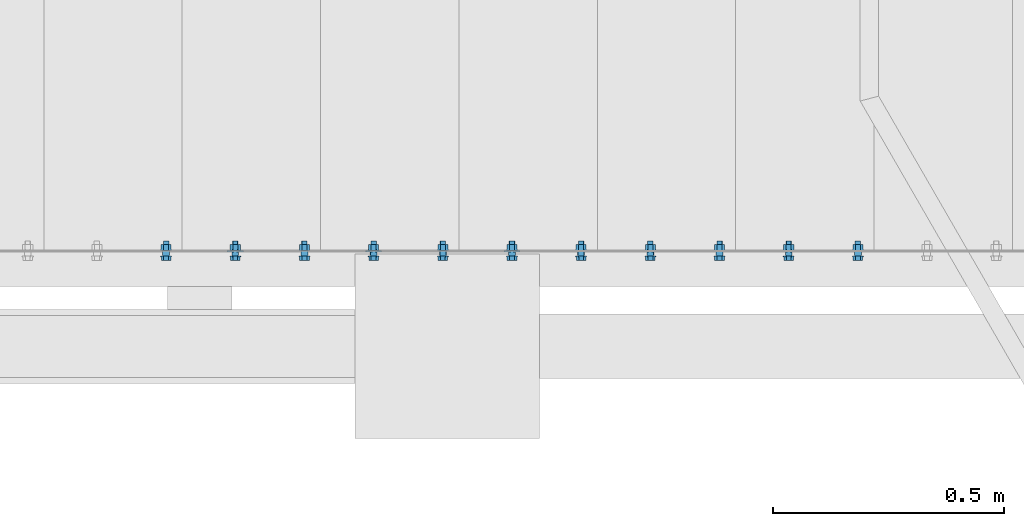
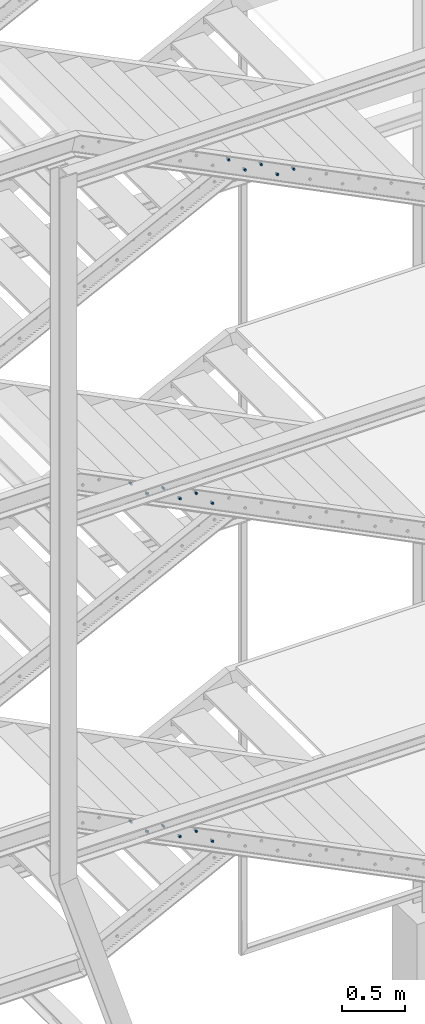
# One storey, part 100 of 132: 17 mechanical fasteners, 11 elements without a shape of their own.
"""IFC2X3 building model written with IfcOpenShell, lengths in millimetres."""

from ifc_helpers import new_model, si_unit, frame, frame_2d, origin_with_axes, origin_2d_with_axis, place, context, subcontext, project, spatial, polyline, circle_curve, parameter, trimmed, segment, composite_curve, circle, outline, extrude, source, transform, mapped, material, type_object, element, aggregate, save


model = new_model("IFC2X3")

# Units and contexts
model_context = context("Model", 3, precision=1e-05, world=origin_with_axes())
body_context = subcontext(model_context, "Body", "Model", "MODEL_VIEW")
ifc_project = project(units=[si_unit("LENGTHUNIT", "METRE", prefix="MILLI"), si_unit("AREAUNIT", "SQUARE_METRE"), si_unit("VOLUMEUNIT", "CUBIC_METRE"), si_unit("MASSUNIT", "GRAM", prefix="KILO"), si_unit("TIMEUNIT", "SECOND"), si_unit("PLANEANGLEUNIT", "RADIAN"), si_unit("SOLIDANGLEUNIT", "STERADIAN"), si_unit("THERMODYNAMICTEMPERATUREUNIT", "DEGREE_CELSIUS"), si_unit("LUMINOUSINTENSITYUNIT", "LUMEN")], contexts=[model_context])

# Site, building, storey
site_placement = place(None, origin_with_axes())
site = spatial("IfcSite", under=ifc_project, at=site_placement, Name="Budowa", CompositionType="ELEMENT")
building_placement = place(site_placement, origin_with_axes())
building = spatial("IfcBuilding", under=site, at=building_placement, Name="Undefined", CompositionType="ELEMENT")
storey_placement = place(building_placement, origin_with_axes())
storey = spatial("IfcBuildingStorey", under=building, at=storey_placement, Name="Undefined", CompositionType="ELEMENT", Elevation=0.0)

# Assembly, mechanical fastener
assembly_1_placement = place(storey_placement, origin_with_axes())
assembly_1 = element("IfcElementAssembly", 1, at=assembly_1_placement, inside=storey, Name="Steel Assembly", AssemblyPlace="NOTDEFINED", PredefinedType="RIGID_FRAME")
ifc_material = material(Name="Undefined")
discrete_accessory_type = type_object("IfcDiscreteAccessoryType", Name="Bolt assembly")
shared_shape_1 = source(origin_with_axes(), body_context, "Body", "SweptSolid", [
    extrude(circle(Radius=7.5, at=origin_2d_with_axis()), frame((0.0, -8.40000000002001, 0.0), z_axis=(0.0, 1.0, 0.0), x_axis=(1.0, 0.0, 0.0)), (0.0, 0.0, 1.0), 8.5),
    extrude(circle(Radius=7.5, at=origin_2d_with_axis()), frame((0.0, -0.1, 0.0), z_axis=(0.0, 1.0, 0.0), x_axis=(1.0, 0.0, 0.0)), (0.0, 0.0, 1.0), 3.1),
    extrude(outline(polyline([(10.39230484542, 0.0), (5.19615242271, 9.00000000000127), (-5.19615242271, 9.00000000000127), (-10.39230484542, 0.0), (-5.19615242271, -9.00000000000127), (5.19615242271, -9.00000000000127), (10.39230484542, 0.0)])), frame((0.0, -18.50000000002, 0.0), z_axis=(0.0, 1.0, 0.0), x_axis=(1.0, 0.0, 0.0)), (0.0, 0.0, 1.0), 7.5),
    extrude(circle(Radius=6.0, at=origin_2d_with_axis()), frame((0.0, -11.00000000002, 0.0), z_axis=(0.0, 1.0, 0.0), x_axis=(1.0, 0.0, 0.0)), (0.0, 0.0, 1.0), 35.0),
    extrude(circle(Radius=12.0, at=origin_2d_with_axis()), frame((0.0, -11.00000000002, 0.0), z_axis=(0.0, 1.0, 0.0), x_axis=(1.0, 0.0, 0.0)), (0.0, 0.0, 1.0), 2.5),
    extrude(circle(Radius=12.0, at=origin_2d_with_axis()), frame((0.0, 3.0, 0.0), z_axis=(0.0, 1.0, 0.0), x_axis=(1.0, 0.0, 0.0)), (0.0, 0.0, 1.0), 2.5),
    extrude(outline(polyline([(10.96965511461, 0.0), (5.484827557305, 9.50000000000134), (-5.484827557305, 9.50000000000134), (-10.96965511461, 0.0), (-5.484827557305, -9.50000000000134), (5.484827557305, -9.50000000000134), (10.96965511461, 0.0)])), frame((0.0, 5.5, 0.0), z_axis=(0.0, 1.0, 0.0), x_axis=(1.0, 0.0, 0.0)), (0.0, 0.0, 1.0), 10.0),
])
mechanical_fastener_1_placement = place(assembly_1_placement, frame((-2620.00000007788, 7875.00000004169, 11600.000000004), z_axis=(0.0, 0.0, -1.0), x_axis=(-1.0, 0.0, 0.0)))
mechanical_fastener_1 = element("IfcMechanicalFastener", 2, at=mechanical_fastener_1_placement, type_object=discrete_accessory_type, material=ifc_material, Name="Bolt assembly", NominalDiameter=12.0, NominalLength=35.0, context=body_context, shape_type="MappedRepresentation", body=[
    mapped(shared_shape_1, transform((35.0, 0.0, 25.0))),
])
aggregate(assembly_1, [mechanical_fastener_1])

assembly_2_placement = place(storey_placement, origin_with_axes())
assembly_2 = element("IfcElementAssembly", 3, at=assembly_2_placement, inside=storey, Name="Steel Assembly", AssemblyPlace="NOTDEFINED", PredefinedType="RIGID_FRAME")
mechanical_fastener_2_placement = place(assembly_2_placement, frame((-2320.00000007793, 7875.00000004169, 11450.000000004), z_axis=(0.0, 0.0, -1.0), x_axis=(-1.0, 0.0, 0.0)))
mechanical_fastener_2 = element("IfcMechanicalFastener", 4, at=mechanical_fastener_2_placement, type_object=discrete_accessory_type, material=ifc_material, Name="Bolt assembly", NominalDiameter=12.0, NominalLength=35.0, context=body_context, shape_type="MappedRepresentation", body=[
    mapped(shared_shape_1, transform((35.0, 0.0, 25.0))),
])

assembly_3_placement = place(storey_placement, origin_with_axes())
assembly_3 = element("IfcElementAssembly", 5, at=assembly_3_placement, inside=storey, Name="Steel Assembly", AssemblyPlace="NOTDEFINED", PredefinedType="RIGID_FRAME")
mechanical_fastener_3_placement = place(assembly_3_placement, frame((-2020.00000007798, 7875.00000004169, 11300.0000000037), z_axis=(0.0, 0.0, -1.0), x_axis=(-1.0, 0.0, 0.0)))
mechanical_fastener_3 = element("IfcMechanicalFastener", 6, at=mechanical_fastener_3_placement, type_object=discrete_accessory_type, material=ifc_material, Name="Bolt assembly", NominalDiameter=12.0, NominalLength=35.0, context=body_context, shape_type="MappedRepresentation", body=[
    mapped(shared_shape_1, transform((35.0, 0.0, 25.0))),
])

assembly_4_placement = place(storey_placement, origin_with_axes())
assembly_4 = element("IfcElementAssembly", 7, at=assembly_4_placement, inside=storey, Name="Steel Assembly", AssemblyPlace="NOTDEFINED", PredefinedType="RIGID_FRAME")
mechanical_fastener_4_placement = place(assembly_4_placement, frame((-3520.00000007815, 7875.00000004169, 8750.00000000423), z_axis=(0.0, 0.0, -1.0), x_axis=(-1.0, 0.0, 0.0)))
mechanical_fastener_4 = element("IfcMechanicalFastener", 8, at=mechanical_fastener_4_placement, type_object=discrete_accessory_type, material=ifc_material, Name="Bolt assembly", NominalDiameter=12.0, NominalLength=35.0, context=body_context, shape_type="MappedRepresentation", body=[
    mapped(shared_shape_1, transform((35.0, 0.0, 25.0))),
])
aggregate(assembly_4, [mechanical_fastener_4])

assembly_5_placement = place(storey_placement, origin_with_axes())
assembly_5 = element("IfcElementAssembly", 9, at=assembly_5_placement, inside=storey, Name="Steel Assembly", AssemblyPlace="NOTDEFINED", PredefinedType="RIGID_FRAME")
mechanical_fastener_5_placement = place(assembly_5_placement, frame((-3220.00000007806, 7875.00000004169, 8600.00000000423), z_axis=(0.0, 0.0, -1.0), x_axis=(-1.0, 0.0, 0.0)))
mechanical_fastener_5 = element("IfcMechanicalFastener", 10, at=mechanical_fastener_5_placement, type_object=discrete_accessory_type, material=ifc_material, Name="Bolt assembly", NominalDiameter=12.0, NominalLength=35.0, context=body_context, shape_type="MappedRepresentation", body=[
    mapped(shared_shape_1, transform((35.0, 0.0, 25.0))),
])

assembly_6_placement = place(storey_placement, origin_with_axes())
assembly_6 = element("IfcElementAssembly", 11, at=assembly_6_placement, inside=storey, Name="Steel Assembly", AssemblyPlace="NOTDEFINED", PredefinedType="RIGID_FRAME")
mechanical_fastener_6_placement = place(assembly_6_placement, frame((-2920.00000007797, 7875.00000004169, 8450.00000000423), z_axis=(0.0, 0.0, -1.0), x_axis=(-1.0, 0.0, 0.0)))
mechanical_fastener_6 = element("IfcMechanicalFastener", 12, at=mechanical_fastener_6_placement, type_object=discrete_accessory_type, material=ifc_material, Name="Bolt assembly", NominalDiameter=12.0, NominalLength=35.0, context=body_context, shape_type="MappedRepresentation", body=[
    mapped(shared_shape_1, transform((35.0, 0.0, 25.0))),
])

assembly_7_placement = place(storey_placement, origin_with_axes())
assembly_7 = element("IfcElementAssembly", 13, at=assembly_7_placement, inside=storey, Name="Steel Assembly", AssemblyPlace="NOTDEFINED", PredefinedType="RIGID_FRAME")
mechanical_fastener_7_placement = place(assembly_7_placement, frame((-3520.00000007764, 7875.00000004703, 5449.99999999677), z_axis=(0.0, 0.0, -1.0), x_axis=(-1.0, 0.0, 0.0)))
mechanical_fastener_7 = element("IfcMechanicalFastener", 14, at=mechanical_fastener_7_placement, type_object=discrete_accessory_type, material=ifc_material, Name="Bolt assembly", NominalDiameter=12.0, NominalLength=35.0, context=body_context, shape_type="MappedRepresentation", body=[
    mapped(shared_shape_1, transform((35.0, 0.0, 25.0))),
])
aggregate(assembly_7, [mechanical_fastener_7])

assembly_8_placement = place(storey_placement, origin_with_axes())
assembly_8 = element("IfcElementAssembly", 15, at=assembly_8_placement, inside=storey, Name="Steel Assembly", AssemblyPlace="NOTDEFINED", PredefinedType="RIGID_FRAME")
mechanical_fastener_8_placement = place(assembly_8_placement, frame((-3220.00000007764, 7875.00000004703, 5299.99999999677), z_axis=(0.0, 0.0, -1.0), x_axis=(-1.0, 0.0, 0.0)))
mechanical_fastener_8 = element("IfcMechanicalFastener", 16, at=mechanical_fastener_8_placement, type_object=discrete_accessory_type, material=ifc_material, Name="Bolt assembly", NominalDiameter=12.0, NominalLength=35.0, context=body_context, shape_type="MappedRepresentation", body=[
    mapped(shared_shape_1, transform((35.0, 0.0, 25.0))),
])

assembly_9_placement = place(storey_placement, origin_with_axes())
assembly_9 = element("IfcElementAssembly", 17, at=assembly_9_placement, inside=storey, Name="Steel Assembly", AssemblyPlace="NOTDEFINED", PredefinedType="RIGID_FRAME")
mechanical_fastener_9_placement = place(assembly_9_placement, frame((-2920.00000007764, 7875.00000004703, 5149.99999999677), z_axis=(0.0, 0.0, -1.0), x_axis=(-1.0, 0.0, 0.0)))
mechanical_fastener_9 = element("IfcMechanicalFastener", 18, at=mechanical_fastener_9_placement, type_object=discrete_accessory_type, material=ifc_material, Name="Bolt assembly", NominalDiameter=12.0, NominalLength=35.0, context=body_context, shape_type="MappedRepresentation", body=[
    mapped(shared_shape_1, transform((35.0, 0.0, 25.0))),
])

# Mechanical fastener
shared_shape_2 = source(origin_with_axes(), body_context, "Body", "SweptSolid", [
    extrude(circle(Radius=7.5, at=origin_2d_with_axis()), frame((0.0, -8.40000000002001, 0.0), z_axis=(0.0, 1.0, 0.0), x_axis=(1.0, 0.0, 0.0)), (0.0, 0.0, 1.0), 8.5),
    extrude(outline(composite_curve([segment(polyline([(-10.0, 7.5), (10.0, 7.5)]), True, "CONTINUOUS"), segment(trimmed(circle_curve(frame_2d((10.0, 0.0), x_axis=(0.0, 1.0)), 7.5), [parameter(0.0)], [parameter(3.14159265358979)], False, "PARAMETER"), True, "CONTINUOUS"), segment(polyline([(10.0, -7.5), (-10.0, -7.5)]), True, "CONTINUOUS"), segment(trimmed(circle_curve(frame_2d((-10.0, 0.0), x_axis=(0.0, -1.0)), 7.5), [parameter(0.0)], [parameter(3.14159265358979)], False, "PARAMETER"), True, "DISCONTINUOUS")], self_intersect=False)), frame((0.0, -0.1, 0.0), z_axis=(0.0, 1.0, 0.0), x_axis=(1.0, 0.0, 0.0)), (0.0, 0.0, 1.0), 3.1),
    extrude(outline(polyline([(10.39230484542, 0.0), (5.19615242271, 9.00000000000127), (-5.19615242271, 9.00000000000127), (-10.39230484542, 0.0), (-5.19615242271, -9.00000000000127), (5.19615242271, -9.00000000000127), (10.39230484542, 0.0)])), frame((0.0, -18.50000000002, 0.0), z_axis=(0.0, 1.0, 0.0), x_axis=(1.0, 0.0, 0.0)), (0.0, 0.0, 1.0), 7.5),
    extrude(circle(Radius=6.0, at=origin_2d_with_axis()), frame((0.0, -11.00000000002, 0.0), z_axis=(0.0, 1.0, 0.0), x_axis=(1.0, 0.0, 0.0)), (0.0, 0.0, 1.0), 35.0),
    extrude(circle(Radius=12.0, at=origin_2d_with_axis()), frame((0.0, -11.00000000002, 0.0), z_axis=(0.0, 1.0, 0.0), x_axis=(1.0, 0.0, 0.0)), (0.0, 0.0, 1.0), 2.5),
    extrude(circle(Radius=12.0, at=origin_2d_with_axis()), frame((0.0, 3.0, 0.0), z_axis=(0.0, 1.0, 0.0), x_axis=(1.0, 0.0, 0.0)), (0.0, 0.0, 1.0), 2.5),
    extrude(outline(polyline([(10.96965511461, 0.0), (5.484827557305, 9.50000000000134), (-5.484827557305, 9.50000000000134), (-10.96965511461, 0.0), (-5.484827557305, -9.50000000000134), (5.484827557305, -9.50000000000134), (10.96965511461, 0.0)])), frame((0.0, 5.5, 0.0), z_axis=(0.0, 1.0, 0.0), x_axis=(1.0, 0.0, 0.0)), (0.0, 0.0, 1.0), 10.0),
])
mechanical_fastener_10_placement = place(assembly_2_placement, frame((-2320.00000007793, 7875.00000004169, 11450.000000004), z_axis=(0.0, 0.0, -1.0), x_axis=(-1.0, 0.0, 0.0)))
mechanical_fastener_10 = element("IfcMechanicalFastener", 19, at=mechanical_fastener_10_placement, type_object=discrete_accessory_type, material=ifc_material, Name="Bolt assembly", NominalDiameter=12.0, NominalLength=35.0, context=body_context, shape_type="MappedRepresentation", body=[
    mapped(shared_shape_2, transform((185.0, 0.0, 25.0))),
])

aggregate(assembly_2, [mechanical_fastener_10, mechanical_fastener_2])

shared_shape_3 = source(origin_with_axes(), body_context, "Body", "SweptSolid", [
    extrude(circle(Radius=7.5, at=origin_2d_with_axis()), frame((0.0, -8.40000000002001, 0.0), z_axis=(0.0, 1.0, 0.0), x_axis=(1.0, 0.0, 0.0)), (0.0, 0.0, 1.0), 8.5),
    extrude(outline(composite_curve([segment(polyline([(-10.0, 7.5), (10.0, 7.5)]), True, "CONTINUOUS"), segment(trimmed(circle_curve(frame_2d((10.0, 0.0), x_axis=(0.0, 1.0)), 7.5), [parameter(0.0)], [parameter(3.14159265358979)], False, "PARAMETER"), True, "CONTINUOUS"), segment(polyline([(10.0, -7.5), (-10.0, -7.5)]), True, "CONTINUOUS"), segment(trimmed(circle_curve(frame_2d((-10.0, 0.0), x_axis=(0.0, -1.0)), 7.5), [parameter(0.0)], [parameter(3.14159265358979)], False, "PARAMETER"), True, "DISCONTINUOUS")], self_intersect=False)), frame((0.0, -0.1, 0.0), z_axis=(0.0, 1.0, 0.0), x_axis=(1.0, 0.0, 0.0)), (0.0, 0.0, 1.0), 3.1),
    extrude(outline(polyline([(10.39230484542, 0.0), (5.19615242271, 9.00000000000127), (-5.19615242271, 9.00000000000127), (-10.39230484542, 0.0), (-5.19615242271, -9.00000000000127), (5.19615242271, -9.00000000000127), (10.39230484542, 0.0)])), frame((0.0, -18.50000000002, 0.0), z_axis=(0.0, 1.0, 0.0), x_axis=(1.0, 0.0, 0.0)), (0.0, 0.0, 1.0), 7.5),
    extrude(circle(Radius=6.0, at=origin_2d_with_axis()), frame((0.0, -11.00000000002, 0.0), z_axis=(0.0, 1.0, 0.0), x_axis=(1.0, 0.0, 0.0)), (0.0, 0.0, 1.0), 35.0),
    extrude(circle(Radius=12.0, at=origin_2d_with_axis()), frame((0.0, -11.00000000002, 0.0), z_axis=(0.0, 1.0, 0.0), x_axis=(1.0, 0.0, 0.0)), (0.0, 0.0, 1.0), 2.5),
    extrude(circle(Radius=12.0, at=origin_2d_with_axis()), frame((0.0, 3.0, 0.0), z_axis=(0.0, 1.0, 0.0), x_axis=(1.0, 0.0, 0.0)), (0.0, 0.0, 1.0), 2.5),
    extrude(outline(polyline([(10.96965511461, 0.0), (5.484827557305, 9.50000000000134), (-5.484827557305, 9.50000000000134), (-10.96965511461, 0.0), (-5.484827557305, -9.50000000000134), (5.484827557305, -9.50000000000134), (10.96965511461, 0.0)])), frame((0.0, 5.5, 0.0), z_axis=(0.0, 1.0, 0.0), x_axis=(1.0, 0.0, 0.0)), (0.0, 0.0, 1.0), 10.0),
])
mechanical_fastener_11_placement = place(assembly_3_placement, frame((-2020.00000007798, 7875.00000004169, 11300.0000000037), z_axis=(0.0, 0.0, -1.0), x_axis=(-1.0, 0.0, 0.0)))
mechanical_fastener_11 = element("IfcMechanicalFastener", 20, at=mechanical_fastener_11_placement, type_object=discrete_accessory_type, material=ifc_material, Name="Bolt assembly", NominalDiameter=12.0, NominalLength=35.0, context=body_context, shape_type="MappedRepresentation", body=[
    mapped(shared_shape_3, transform((185.0, 0.0, 25.0))),
])

aggregate(assembly_3, [mechanical_fastener_11, mechanical_fastener_3])

shared_shape_4 = source(origin_with_axes(), body_context, "Body", "SweptSolid", [
    extrude(circle(Radius=7.5, at=origin_2d_with_axis()), frame((0.0, -8.40000000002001, 0.0), z_axis=(0.0, 1.0, 0.0), x_axis=(1.0, 0.0, 0.0)), (0.0, 0.0, 1.0), 8.5),
    extrude(outline(composite_curve([segment(polyline([(-10.0, 7.5), (10.0, 7.5)]), True, "CONTINUOUS"), segment(trimmed(circle_curve(frame_2d((10.0, 0.0), x_axis=(0.0, 1.0)), 7.5), [parameter(0.0)], [parameter(3.14159265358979)], False, "PARAMETER"), True, "CONTINUOUS"), segment(polyline([(10.0, -7.5), (-10.0, -7.5)]), True, "CONTINUOUS"), segment(trimmed(circle_curve(frame_2d((-10.0, 0.0), x_axis=(0.0, -1.0)), 7.5), [parameter(0.0)], [parameter(3.14159265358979)], False, "PARAMETER"), True, "DISCONTINUOUS")], self_intersect=False)), frame((0.0, -0.1, 0.0), z_axis=(0.0, 1.0, 0.0), x_axis=(1.0, 0.0, 0.0)), (0.0, 0.0, 1.0), 3.1),
    extrude(outline(polyline([(10.39230484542, 0.0), (5.19615242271, 9.00000000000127), (-5.19615242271, 9.00000000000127), (-10.39230484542, 0.0), (-5.19615242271, -9.00000000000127), (5.19615242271, -9.00000000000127), (10.39230484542, 0.0)])), frame((0.0, -18.50000000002, 0.0), z_axis=(0.0, 1.0, 0.0), x_axis=(1.0, 0.0, 0.0)), (0.0, 0.0, 1.0), 7.5),
    extrude(circle(Radius=6.0, at=origin_2d_with_axis()), frame((0.0, -11.00000000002, 0.0), z_axis=(0.0, 1.0, 0.0), x_axis=(1.0, 0.0, 0.0)), (0.0, 0.0, 1.0), 35.0),
    extrude(circle(Radius=12.0, at=origin_2d_with_axis()), frame((0.0, -11.00000000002, 0.0), z_axis=(0.0, 1.0, 0.0), x_axis=(1.0, 0.0, 0.0)), (0.0, 0.0, 1.0), 2.5),
    extrude(circle(Radius=12.0, at=origin_2d_with_axis()), frame((0.0, 3.0, 0.0), z_axis=(0.0, 1.0, 0.0), x_axis=(1.0, 0.0, 0.0)), (0.0, 0.0, 1.0), 2.5),
    extrude(outline(polyline([(10.96965511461, 0.0), (5.484827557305, 9.50000000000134), (-5.484827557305, 9.50000000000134), (-10.96965511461, 0.0), (-5.484827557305, -9.50000000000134), (5.484827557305, -9.50000000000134), (10.96965511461, 0.0)])), frame((0.0, 5.5, 0.0), z_axis=(0.0, 1.0, 0.0), x_axis=(1.0, 0.0, 0.0)), (0.0, 0.0, 1.0), 10.0),
])
mechanical_fastener_12_placement = place(assembly_5_placement, frame((-3220.00000007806, 7875.00000004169, 8600.00000000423), z_axis=(0.0, 0.0, -1.0), x_axis=(-1.0, 0.0, 0.0)))
mechanical_fastener_12 = element("IfcMechanicalFastener", 21, at=mechanical_fastener_12_placement, type_object=discrete_accessory_type, material=ifc_material, Name="Bolt assembly", NominalDiameter=12.0, NominalLength=35.0, context=body_context, shape_type="MappedRepresentation", body=[
    mapped(shared_shape_4, transform((185.0, 0.0, 25.0))),
])

aggregate(assembly_5, [mechanical_fastener_12, mechanical_fastener_5])

shared_shape_5 = source(origin_with_axes(), body_context, "Body", "SweptSolid", [
    extrude(circle(Radius=7.5, at=origin_2d_with_axis()), frame((0.0, -8.40000000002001, 0.0), z_axis=(0.0, 1.0, 0.0), x_axis=(1.0, 0.0, 0.0)), (0.0, 0.0, 1.0), 8.5),
    extrude(outline(composite_curve([segment(polyline([(-10.0, 7.5), (10.0, 7.5)]), True, "CONTINUOUS"), segment(trimmed(circle_curve(frame_2d((10.0, 0.0), x_axis=(0.0, 1.0)), 7.5), [parameter(0.0)], [parameter(3.14159265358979)], False, "PARAMETER"), True, "CONTINUOUS"), segment(polyline([(10.0, -7.5), (-10.0, -7.5)]), True, "CONTINUOUS"), segment(trimmed(circle_curve(frame_2d((-10.0, 0.0), x_axis=(0.0, -1.0)), 7.5), [parameter(0.0)], [parameter(3.14159265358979)], False, "PARAMETER"), True, "DISCONTINUOUS")], self_intersect=False)), frame((0.0, -0.1, 0.0), z_axis=(0.0, 1.0, 0.0), x_axis=(1.0, 0.0, 0.0)), (0.0, 0.0, 1.0), 3.1),
    extrude(outline(polyline([(10.39230484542, 0.0), (5.19615242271, 9.00000000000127), (-5.19615242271, 9.00000000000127), (-10.39230484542, 0.0), (-5.19615242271, -9.00000000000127), (5.19615242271, -9.00000000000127), (10.39230484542, 0.0)])), frame((0.0, -18.50000000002, 0.0), z_axis=(0.0, 1.0, 0.0), x_axis=(1.0, 0.0, 0.0)), (0.0, 0.0, 1.0), 7.5),
    extrude(circle(Radius=6.0, at=origin_2d_with_axis()), frame((0.0, -11.00000000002, 0.0), z_axis=(0.0, 1.0, 0.0), x_axis=(1.0, 0.0, 0.0)), (0.0, 0.0, 1.0), 35.0),
    extrude(circle(Radius=12.0, at=origin_2d_with_axis()), frame((0.0, -11.00000000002, 0.0), z_axis=(0.0, 1.0, 0.0), x_axis=(1.0, 0.0, 0.0)), (0.0, 0.0, 1.0), 2.5),
    extrude(circle(Radius=12.0, at=origin_2d_with_axis()), frame((0.0, 3.0, 0.0), z_axis=(0.0, 1.0, 0.0), x_axis=(1.0, 0.0, 0.0)), (0.0, 0.0, 1.0), 2.5),
    extrude(outline(polyline([(10.96965511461, 0.0), (5.484827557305, 9.50000000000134), (-5.484827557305, 9.50000000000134), (-10.96965511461, 0.0), (-5.484827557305, -9.50000000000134), (5.484827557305, -9.50000000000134), (10.96965511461, 0.0)])), frame((0.0, 5.5, 0.0), z_axis=(0.0, 1.0, 0.0), x_axis=(1.0, 0.0, 0.0)), (0.0, 0.0, 1.0), 10.0),
])
mechanical_fastener_13_placement = place(assembly_6_placement, frame((-2920.00000007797, 7875.00000004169, 8450.00000000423), z_axis=(0.0, 0.0, -1.0), x_axis=(-1.0, 0.0, 0.0)))
mechanical_fastener_13 = element("IfcMechanicalFastener", 22, at=mechanical_fastener_13_placement, type_object=discrete_accessory_type, material=ifc_material, Name="Bolt assembly", NominalDiameter=12.0, NominalLength=35.0, context=body_context, shape_type="MappedRepresentation", body=[
    mapped(shared_shape_5, transform((185.0, 0.0, 25.0))),
])

aggregate(assembly_6, [mechanical_fastener_13, mechanical_fastener_6])

# Assembly, mechanical fastener
assembly_10_placement = place(storey_placement, origin_with_axes())
assembly_10 = element("IfcElementAssembly", 23, at=assembly_10_placement, inside=storey, Name="Steel Assembly", AssemblyPlace="NOTDEFINED", PredefinedType="RIGID_FRAME")
shared_shape_6 = source(origin_with_axes(), body_context, "Body", "SweptSolid", [
    extrude(circle(Radius=7.5, at=origin_2d_with_axis()), frame((0.0, -8.40000000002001, 0.0), z_axis=(0.0, 1.0, 0.0), x_axis=(1.0, 0.0, 0.0)), (0.0, 0.0, 1.0), 8.5),
    extrude(outline(composite_curve([segment(polyline([(-10.0, 7.5), (10.0, 7.5)]), True, "CONTINUOUS"), segment(trimmed(circle_curve(frame_2d((10.0, 0.0), x_axis=(0.0, 1.0)), 7.5), [parameter(0.0)], [parameter(3.14159265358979)], False, "PARAMETER"), True, "CONTINUOUS"), segment(polyline([(10.0, -7.5), (-10.0, -7.5)]), True, "CONTINUOUS"), segment(trimmed(circle_curve(frame_2d((-10.0, 0.0), x_axis=(0.0, -1.0)), 7.5), [parameter(0.0)], [parameter(3.14159265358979)], False, "PARAMETER"), True, "DISCONTINUOUS")], self_intersect=False)), frame((0.0, -0.1, 0.0), z_axis=(0.0, 1.0, 0.0), x_axis=(1.0, 0.0, 0.0)), (0.0, 0.0, 1.0), 3.1),
    extrude(outline(polyline([(10.39230484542, 0.0), (5.19615242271, 9.00000000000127), (-5.19615242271, 9.00000000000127), (-10.39230484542, 0.0), (-5.19615242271, -9.00000000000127), (5.19615242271, -9.00000000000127), (10.39230484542, 0.0)])), frame((0.0, -18.50000000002, 0.0), z_axis=(0.0, 1.0, 0.0), x_axis=(1.0, 0.0, 0.0)), (0.0, 0.0, 1.0), 7.5),
    extrude(circle(Radius=6.0, at=origin_2d_with_axis()), frame((0.0, -11.00000000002, 0.0), z_axis=(0.0, 1.0, 0.0), x_axis=(1.0, 0.0, 0.0)), (0.0, 0.0, 1.0), 35.0),
    extrude(circle(Radius=12.0, at=origin_2d_with_axis()), frame((0.0, -11.00000000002, 0.0), z_axis=(0.0, 1.0, 0.0), x_axis=(1.0, 0.0, 0.0)), (0.0, 0.0, 1.0), 2.5),
    extrude(circle(Radius=12.0, at=origin_2d_with_axis()), frame((0.0, 3.0, 0.0), z_axis=(0.0, 1.0, 0.0), x_axis=(1.0, 0.0, 0.0)), (0.0, 0.0, 1.0), 2.5),
    extrude(outline(polyline([(10.96965511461, 0.0), (5.484827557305, 9.50000000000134), (-5.484827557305, 9.50000000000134), (-10.96965511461, 0.0), (-5.484827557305, -9.50000000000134), (5.484827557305, -9.50000000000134), (10.96965511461, 0.0)])), frame((0.0, 5.5, 0.0), z_axis=(0.0, 1.0, 0.0), x_axis=(1.0, 0.0, 0.0)), (0.0, 0.0, 1.0), 10.0),
])
mechanical_fastener_14_placement = place(assembly_10_placement, frame((-2620.00000007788, 7875.00000004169, 8300.00000000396), z_axis=(0.0, 0.0, -1.0), x_axis=(-1.0, 0.0, 0.0)))
mechanical_fastener_14 = element("IfcMechanicalFastener", 24, at=mechanical_fastener_14_placement, type_object=discrete_accessory_type, material=ifc_material, Name="Bolt assembly", NominalDiameter=12.0, NominalLength=35.0, context=body_context, shape_type="MappedRepresentation", body=[
    mapped(shared_shape_6, transform((185.0, 0.0, 25.0))),
])
aggregate(assembly_10, [mechanical_fastener_14])

# Mechanical fastener
shared_shape_7 = source(origin_with_axes(), body_context, "Body", "SweptSolid", [
    extrude(circle(Radius=7.5, at=origin_2d_with_axis()), frame((0.0, -8.40000000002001, 0.0), z_axis=(0.0, 1.0, 0.0), x_axis=(1.0, 0.0, 0.0)), (0.0, 0.0, 1.0), 8.5),
    extrude(outline(composite_curve([segment(polyline([(-10.0, 7.5), (10.0, 7.5)]), True, "CONTINUOUS"), segment(trimmed(circle_curve(frame_2d((10.0, 0.0), x_axis=(0.0, 1.0)), 7.5), [parameter(0.0)], [parameter(3.14159265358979)], False, "PARAMETER"), True, "CONTINUOUS"), segment(polyline([(10.0, -7.5), (-10.0, -7.5)]), True, "CONTINUOUS"), segment(trimmed(circle_curve(frame_2d((-10.0, 0.0), x_axis=(0.0, -1.0)), 7.5), [parameter(0.0)], [parameter(3.14159265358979)], False, "PARAMETER"), True, "DISCONTINUOUS")], self_intersect=False)), frame((0.0, -0.1, 0.0), z_axis=(0.0, 1.0, 0.0), x_axis=(1.0, 0.0, 0.0)), (0.0, 0.0, 1.0), 3.1),
    extrude(outline(polyline([(10.39230484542, 0.0), (5.19615242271, 9.00000000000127), (-5.19615242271, 9.00000000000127), (-10.39230484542, 0.0), (-5.19615242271, -9.00000000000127), (5.19615242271, -9.00000000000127), (10.39230484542, 0.0)])), frame((0.0, -18.50000000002, 0.0), z_axis=(0.0, 1.0, 0.0), x_axis=(1.0, 0.0, 0.0)), (0.0, 0.0, 1.0), 7.5),
    extrude(circle(Radius=6.0, at=origin_2d_with_axis()), frame((0.0, -11.00000000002, 0.0), z_axis=(0.0, 1.0, 0.0), x_axis=(1.0, 0.0, 0.0)), (0.0, 0.0, 1.0), 35.0),
    extrude(circle(Radius=12.0, at=origin_2d_with_axis()), frame((0.0, -11.00000000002, 0.0), z_axis=(0.0, 1.0, 0.0), x_axis=(1.0, 0.0, 0.0)), (0.0, 0.0, 1.0), 2.5),
    extrude(circle(Radius=12.0, at=origin_2d_with_axis()), frame((0.0, 3.0, 0.0), z_axis=(0.0, 1.0, 0.0), x_axis=(1.0, 0.0, 0.0)), (0.0, 0.0, 1.0), 2.5),
    extrude(outline(polyline([(10.96965511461, 0.0), (5.484827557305, 9.50000000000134), (-5.484827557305, 9.50000000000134), (-10.96965511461, 0.0), (-5.484827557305, -9.50000000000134), (5.484827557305, -9.50000000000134), (10.96965511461, 0.0)])), frame((0.0, 5.5, 0.0), z_axis=(0.0, 1.0, 0.0), x_axis=(1.0, 0.0, 0.0)), (0.0, 0.0, 1.0), 10.0),
])
mechanical_fastener_15_placement = place(assembly_8_placement, frame((-3220.00000007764, 7875.00000004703, 5299.99999999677), z_axis=(0.0, 0.0, -1.0), x_axis=(-1.0, 0.0, 0.0)))
mechanical_fastener_15 = element("IfcMechanicalFastener", 25, at=mechanical_fastener_15_placement, type_object=discrete_accessory_type, material=ifc_material, Name="Bolt assembly", NominalDiameter=12.0, NominalLength=35.0, context=body_context, shape_type="MappedRepresentation", body=[
    mapped(shared_shape_7, transform((185.0, 0.0, 25.0))),
])

aggregate(assembly_8, [mechanical_fastener_15, mechanical_fastener_8])

shared_shape_8 = source(origin_with_axes(), body_context, "Body", "SweptSolid", [
    extrude(circle(Radius=7.5, at=origin_2d_with_axis()), frame((0.0, -8.40000000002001, 0.0), z_axis=(0.0, 1.0, 0.0), x_axis=(1.0, 0.0, 0.0)), (0.0, 0.0, 1.0), 8.5),
    extrude(outline(composite_curve([segment(polyline([(-10.0, 7.5), (10.0, 7.5)]), True, "CONTINUOUS"), segment(trimmed(circle_curve(frame_2d((10.0, 0.0), x_axis=(0.0, 1.0)), 7.5), [parameter(0.0)], [parameter(3.14159265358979)], False, "PARAMETER"), True, "CONTINUOUS"), segment(polyline([(10.0, -7.5), (-10.0, -7.5)]), True, "CONTINUOUS"), segment(trimmed(circle_curve(frame_2d((-10.0, 0.0), x_axis=(0.0, -1.0)), 7.5), [parameter(0.0)], [parameter(3.14159265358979)], False, "PARAMETER"), True, "DISCONTINUOUS")], self_intersect=False)), frame((0.0, -0.1, 0.0), z_axis=(0.0, 1.0, 0.0), x_axis=(1.0, 0.0, 0.0)), (0.0, 0.0, 1.0), 3.1),
    extrude(outline(polyline([(10.39230484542, 0.0), (5.19615242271, 9.00000000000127), (-5.19615242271, 9.00000000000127), (-10.39230484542, 0.0), (-5.19615242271, -9.00000000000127), (5.19615242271, -9.00000000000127), (10.39230484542, 0.0)])), frame((0.0, -18.50000000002, 0.0), z_axis=(0.0, 1.0, 0.0), x_axis=(1.0, 0.0, 0.0)), (0.0, 0.0, 1.0), 7.5),
    extrude(circle(Radius=6.0, at=origin_2d_with_axis()), frame((0.0, -11.00000000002, 0.0), z_axis=(0.0, 1.0, 0.0), x_axis=(1.0, 0.0, 0.0)), (0.0, 0.0, 1.0), 35.0),
    extrude(circle(Radius=12.0, at=origin_2d_with_axis()), frame((0.0, -11.00000000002, 0.0), z_axis=(0.0, 1.0, 0.0), x_axis=(1.0, 0.0, 0.0)), (0.0, 0.0, 1.0), 2.5),
    extrude(circle(Radius=12.0, at=origin_2d_with_axis()), frame((0.0, 3.0, 0.0), z_axis=(0.0, 1.0, 0.0), x_axis=(1.0, 0.0, 0.0)), (0.0, 0.0, 1.0), 2.5),
    extrude(outline(polyline([(10.96965511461, 0.0), (5.484827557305, 9.50000000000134), (-5.484827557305, 9.50000000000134), (-10.96965511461, 0.0), (-5.484827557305, -9.50000000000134), (5.484827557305, -9.50000000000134), (10.96965511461, 0.0)])), frame((0.0, 5.5, 0.0), z_axis=(0.0, 1.0, 0.0), x_axis=(1.0, 0.0, 0.0)), (0.0, 0.0, 1.0), 10.0),
])
mechanical_fastener_16_placement = place(assembly_9_placement, frame((-2920.00000007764, 7875.00000004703, 5149.99999999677), z_axis=(0.0, 0.0, -1.0), x_axis=(-1.0, 0.0, 0.0)))
mechanical_fastener_16 = element("IfcMechanicalFastener", 26, at=mechanical_fastener_16_placement, type_object=discrete_accessory_type, material=ifc_material, Name="Bolt assembly", NominalDiameter=12.0, NominalLength=35.0, context=body_context, shape_type="MappedRepresentation", body=[
    mapped(shared_shape_8, transform((185.0, 0.0, 25.0))),
])

aggregate(assembly_9, [mechanical_fastener_16, mechanical_fastener_9])

# Assembly, mechanical fastener
assembly_11_placement = place(storey_placement, origin_with_axes())
assembly_11 = element("IfcElementAssembly", 27, at=assembly_11_placement, inside=storey, Name="Steel Assembly", AssemblyPlace="NOTDEFINED", PredefinedType="RIGID_FRAME")
shared_shape_9 = source(origin_with_axes(), body_context, "Body", "SweptSolid", [
    extrude(circle(Radius=7.5, at=origin_2d_with_axis()), frame((0.0, -8.40000000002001, 0.0), z_axis=(0.0, 1.0, 0.0), x_axis=(1.0, 0.0, 0.0)), (0.0, 0.0, 1.0), 8.5),
    extrude(outline(composite_curve([segment(polyline([(-10.0, 7.5), (10.0, 7.5)]), True, "CONTINUOUS"), segment(trimmed(circle_curve(frame_2d((10.0, 0.0), x_axis=(0.0, 1.0)), 7.5), [parameter(0.0)], [parameter(3.14159265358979)], False, "PARAMETER"), True, "CONTINUOUS"), segment(polyline([(10.0, -7.5), (-10.0, -7.5)]), True, "CONTINUOUS"), segment(trimmed(circle_curve(frame_2d((-10.0, 0.0), x_axis=(0.0, -1.0)), 7.5), [parameter(0.0)], [parameter(3.14159265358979)], False, "PARAMETER"), True, "DISCONTINUOUS")], self_intersect=False)), frame((0.0, -0.1, 0.0), z_axis=(0.0, 1.0, 0.0), x_axis=(1.0, 0.0, 0.0)), (0.0, 0.0, 1.0), 3.1),
    extrude(outline(polyline([(10.39230484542, 0.0), (5.19615242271, 9.00000000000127), (-5.19615242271, 9.00000000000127), (-10.39230484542, 0.0), (-5.19615242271, -9.00000000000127), (5.19615242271, -9.00000000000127), (10.39230484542, 0.0)])), frame((0.0, -18.50000000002, 0.0), z_axis=(0.0, 1.0, 0.0), x_axis=(1.0, 0.0, 0.0)), (0.0, 0.0, 1.0), 7.5),
    extrude(circle(Radius=6.0, at=origin_2d_with_axis()), frame((0.0, -11.00000000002, 0.0), z_axis=(0.0, 1.0, 0.0), x_axis=(1.0, 0.0, 0.0)), (0.0, 0.0, 1.0), 35.0),
    extrude(circle(Radius=12.0, at=origin_2d_with_axis()), frame((0.0, -11.00000000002, 0.0), z_axis=(0.0, 1.0, 0.0), x_axis=(1.0, 0.0, 0.0)), (0.0, 0.0, 1.0), 2.5),
    extrude(circle(Radius=12.0, at=origin_2d_with_axis()), frame((0.0, 3.0, 0.0), z_axis=(0.0, 1.0, 0.0), x_axis=(1.0, 0.0, 0.0)), (0.0, 0.0, 1.0), 2.5),
    extrude(outline(polyline([(10.96965511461, 0.0), (5.484827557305, 9.50000000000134), (-5.484827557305, 9.50000000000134), (-10.96965511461, 0.0), (-5.484827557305, -9.50000000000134), (5.484827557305, -9.50000000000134), (10.96965511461, 0.0)])), frame((0.0, 5.5, 0.0), z_axis=(0.0, 1.0, 0.0), x_axis=(1.0, 0.0, 0.0)), (0.0, 0.0, 1.0), 10.0),
])
mechanical_fastener_17_placement = place(assembly_11_placement, frame((-2620.00000007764, 7875.00000004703, 4999.99999999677), z_axis=(0.0, 0.0, -1.0), x_axis=(-1.0, 0.0, 0.0)))
mechanical_fastener_17 = element("IfcMechanicalFastener", 28, at=mechanical_fastener_17_placement, type_object=discrete_accessory_type, material=ifc_material, Name="Bolt assembly", NominalDiameter=12.0, NominalLength=35.0, context=body_context, shape_type="MappedRepresentation", body=[
    mapped(shared_shape_9, transform((185.0, 0.0, 25.0))),
])
aggregate(assembly_11, [mechanical_fastener_17])

save(model, "model.ifc")
